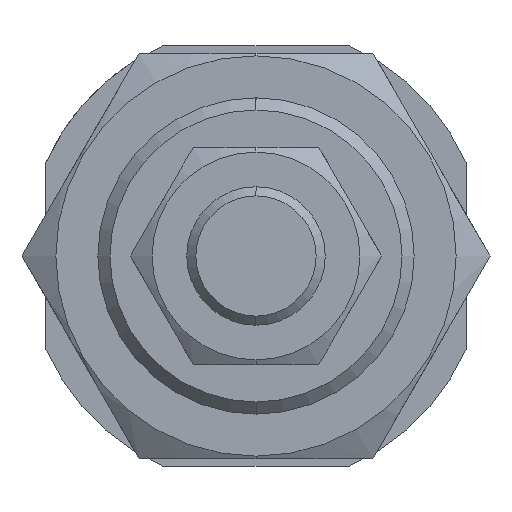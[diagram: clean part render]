
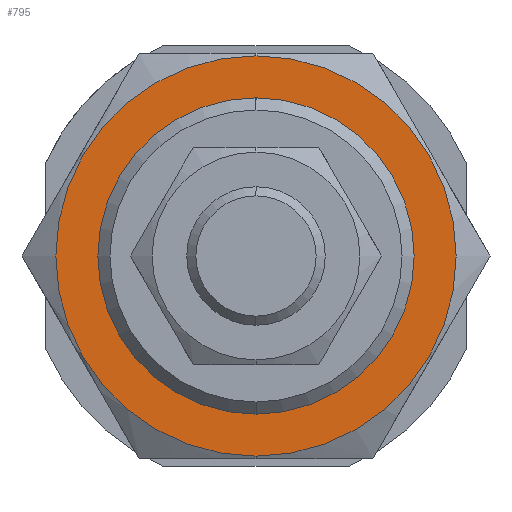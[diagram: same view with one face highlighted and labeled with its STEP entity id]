
A CAD part, left-side view. The second image highlights one B-rep face of the part: STEP entity #795.
In plain terms, the highlighted planar face has unit normal (-1, 0, 0).
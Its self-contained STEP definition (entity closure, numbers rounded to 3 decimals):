
#135 = EDGE_CURVE ( 'NONE', #3110, #2370, #3411, .T. ) ;
#250 = DIRECTION ( 'NONE',  ( 1., 0., 0. ) ) ;
#288 = FACE_BOUND ( 'NONE', #1897, .T. ) ;
#364 = EDGE_CURVE ( 'NONE', #2370, #3110, #1480, .T. ) ;
#572 = VERTEX_POINT ( 'NONE', #3256 ) ;
#738 = AXIS2_PLACEMENT_3D ( 'NONE', #2749, #2836, #3246 ) ;
#795 = ADVANCED_FACE ( 'NONE', ( #5644, #288 ), #3437, .F. ) ;
#804 = DIRECTION ( 'NONE',  ( 0., 1., 0. ) ) ;
#932 = DIRECTION ( 'NONE',  ( 0., 0., -1. ) ) ;
#1233 = DIRECTION ( 'NONE',  ( 1., 0., 0. ) ) ;
#1300 = CARTESIAN_POINT ( 'NONE',  ( -13., 0., 20.25 ) ) ;
#1480 = CIRCLE ( 'NONE', #2312, 20.25 ) ;
#1788 = CARTESIAN_POINT ( 'NONE',  ( -13., 0., 0. ) ) ;
#1897 = EDGE_LOOP ( 'NONE', ( #3962, #4275 ) ) ;
#1932 = CARTESIAN_POINT ( 'NONE',  ( -13., 0., 0. ) ) ;
#2010 = CARTESIAN_POINT ( 'NONE',  ( -13., 0., -16. ) ) ;
#2312 = AXIS2_PLACEMENT_3D ( 'NONE', #5399, #2330, #932 ) ;
#2316 = ORIENTED_EDGE ( 'NONE', *, *, #364, .F. ) ;
#2330 = DIRECTION ( 'NONE',  ( 1., 0., 0. ) ) ;
#2370 = VERTEX_POINT ( 'NONE', #1300 ) ;
#2634 = AXIS2_PLACEMENT_3D ( 'NONE', #1932, #250, #5122 ) ;
#2749 = CARTESIAN_POINT ( 'NONE',  ( -13., 0., 0. ) ) ;
#2836 = DIRECTION ( 'NONE',  ( 1., 0., 0. ) ) ;
#3110 = VERTEX_POINT ( 'NONE', #4264 ) ;
#3246 = DIRECTION ( 'NONE',  ( 0., 0., -1. ) ) ;
#3256 = CARTESIAN_POINT ( 'NONE',  ( -13., 0., 16. ) ) ;
#3411 = CIRCLE ( 'NONE', #738, 20.25 ) ;
#3437 = PLANE ( 'NONE',  #4119 ) ;
#3635 = EDGE_CURVE ( 'NONE', #5579, #572, #3760, .T. ) ;
#3760 = CIRCLE ( 'NONE', #4222, 16. ) ;
#3827 = DIRECTION ( 'NONE',  ( 1., 0., 0. ) ) ;
#3962 = ORIENTED_EDGE ( 'NONE', *, *, #5089, .T. ) ;
#4050 = EDGE_LOOP ( 'NONE', ( #4144, #2316 ) ) ;
#4119 = AXIS2_PLACEMENT_3D ( 'NONE', #4776, #3827, #804 ) ;
#4144 = ORIENTED_EDGE ( 'NONE', *, *, #135, .F. ) ;
#4222 = AXIS2_PLACEMENT_3D ( 'NONE', #1788, #1233, #4429 ) ;
#4264 = CARTESIAN_POINT ( 'NONE',  ( -13., 0., -20.25 ) ) ;
#4275 = ORIENTED_EDGE ( 'NONE', *, *, #3635, .T. ) ;
#4429 = DIRECTION ( 'NONE',  ( 0., 0., -1. ) ) ;
#4758 = CIRCLE ( 'NONE', #2634, 16. ) ;
#4776 = CARTESIAN_POINT ( 'NONE',  ( -13., 0., 0. ) ) ;
#5089 = EDGE_CURVE ( 'NONE', #572, #5579, #4758, .T. ) ;
#5122 = DIRECTION ( 'NONE',  ( 0., 0., -1. ) ) ;
#5399 = CARTESIAN_POINT ( 'NONE',  ( -13., 0., 0. ) ) ;
#5579 = VERTEX_POINT ( 'NONE', #2010 ) ;
#5644 = FACE_OUTER_BOUND ( 'NONE', #4050, .T. ) ;
